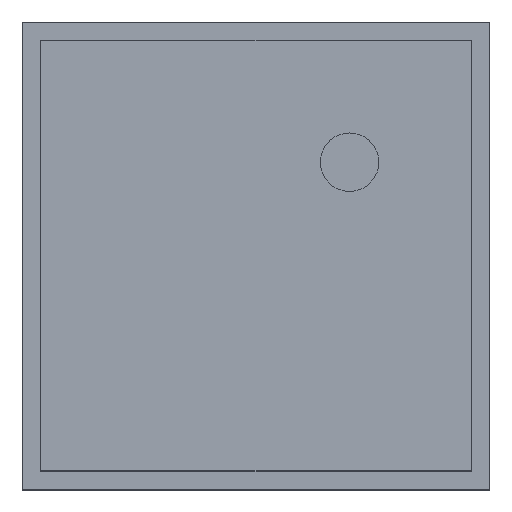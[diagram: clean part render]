
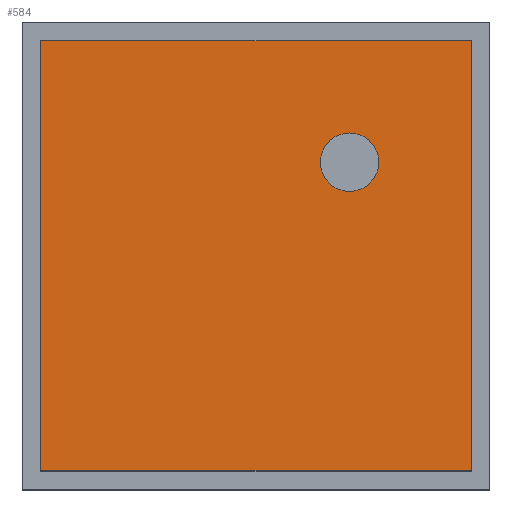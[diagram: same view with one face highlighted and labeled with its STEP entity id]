
A CAD part, top view. The second image highlights one B-rep face of the part: STEP entity #584.
In plain terms, the highlighted planar face has unit normal (0, 0, 1).
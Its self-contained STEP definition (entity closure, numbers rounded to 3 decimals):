
#395 = VERTEX_POINT('',#396);
#396 = CARTESIAN_POINT('',(-0.92,-0.92,0.75));
#403 = PLANE('',#404);
#404 = AXIS2_PLACEMENT_3D('',#405,#406,#407);
#405 = CARTESIAN_POINT('',(-0.92,-0.92,0.25));
#406 = DIRECTION('',(1.,0.,-0.));
#407 = DIRECTION('',(0.,0.,1.));
#415 = PLANE('',#416);
#416 = AXIS2_PLACEMENT_3D('',#417,#418,#419);
#417 = CARTESIAN_POINT('',(-0.92,-0.92,0.25));
#418 = DIRECTION('',(-0.,1.,0.));
#419 = DIRECTION('',(0.,0.,1.));
#456 = VERTEX_POINT('',#457);
#457 = CARTESIAN_POINT('',(-0.92,0.92,0.75));
#471 = PLANE('',#472);
#472 = AXIS2_PLACEMENT_3D('',#473,#474,#475);
#473 = CARTESIAN_POINT('',(-0.92,0.92,0.25));
#474 = DIRECTION('',(-0.,1.,0.));
#475 = DIRECTION('',(0.,0.,1.));
#483 = EDGE_CURVE('',#395,#456,#484,.T.);
#484 = SURFACE_CURVE('',#485,(#489,#496),.PCURVE_S1.);
#485 = LINE('',#486,#487);
#486 = CARTESIAN_POINT('',(-0.92,-0.92,0.75));
#487 = VECTOR('',#488,1.);
#488 = DIRECTION('',(-0.,1.,0.));
#489 = PCURVE('',#403,#490);
#490 = DEFINITIONAL_REPRESENTATION('',(#491),#495);
#491 = LINE('',#492,#493);
#492 = CARTESIAN_POINT('',(0.5,0.));
#493 = VECTOR('',#494,1.);
#494 = DIRECTION('',(0.,-1.));
#495 = ( GEOMETRIC_REPRESENTATION_CONTEXT(2) 
PARAMETRIC_REPRESENTATION_CONTEXT() REPRESENTATION_CONTEXT('2D SPACE',''
  ) );
#496 = PCURVE('',#497,#502);
#497 = PLANE('',#498);
#498 = AXIS2_PLACEMENT_3D('',#499,#500,#501);
#499 = CARTESIAN_POINT('',(-0.92,-0.92,0.75));
#500 = DIRECTION('',(0.,0.,1.));
#501 = DIRECTION('',(1.,0.,-0.));
#502 = DEFINITIONAL_REPRESENTATION('',(#503),#507);
#503 = LINE('',#504,#505);
#504 = CARTESIAN_POINT('',(0.,0.));
#505 = VECTOR('',#506,1.);
#506 = DIRECTION('',(0.,1.));
#507 = ( GEOMETRIC_REPRESENTATION_CONTEXT(2) 
PARAMETRIC_REPRESENTATION_CONTEXT() REPRESENTATION_CONTEXT('2D SPACE',''
  ) );
#536 = EDGE_CURVE('',#395,#537,#539,.T.);
#537 = VERTEX_POINT('',#538);
#538 = CARTESIAN_POINT('',(0.92,-0.92,0.75));
#539 = SURFACE_CURVE('',#540,(#544,#551),.PCURVE_S1.);
#540 = LINE('',#541,#542);
#541 = CARTESIAN_POINT('',(-0.92,-0.92,0.75));
#542 = VECTOR('',#543,1.);
#543 = DIRECTION('',(1.,0.,-0.));
#544 = PCURVE('',#415,#545);
#545 = DEFINITIONAL_REPRESENTATION('',(#546),#550);
#546 = LINE('',#547,#548);
#547 = CARTESIAN_POINT('',(0.5,0.));
#548 = VECTOR('',#549,1.);
#549 = DIRECTION('',(0.,1.));
#550 = ( GEOMETRIC_REPRESENTATION_CONTEXT(2) 
PARAMETRIC_REPRESENTATION_CONTEXT() REPRESENTATION_CONTEXT('2D SPACE',''
  ) );
#551 = PCURVE('',#497,#552);
#552 = DEFINITIONAL_REPRESENTATION('',(#553),#557);
#553 = LINE('',#554,#555);
#554 = CARTESIAN_POINT('',(0.,0.));
#555 = VECTOR('',#556,1.);
#556 = DIRECTION('',(1.,0.));
#557 = ( GEOMETRIC_REPRESENTATION_CONTEXT(2) 
PARAMETRIC_REPRESENTATION_CONTEXT() REPRESENTATION_CONTEXT('2D SPACE',''
  ) );
#573 = PLANE('',#574);
#574 = AXIS2_PLACEMENT_3D('',#575,#576,#577);
#575 = CARTESIAN_POINT('',(0.92,-0.92,0.25));
#576 = DIRECTION('',(1.,0.,-0.));
#577 = DIRECTION('',(0.,0.,1.));
#584 = ADVANCED_FACE('',(#585,#633),#497,.T.);
#585 = FACE_BOUND('',#586,.T.);
#586 = EDGE_LOOP('',(#587,#588,#589,#612));
#587 = ORIENTED_EDGE('',*,*,#483,.F.);
#588 = ORIENTED_EDGE('',*,*,#536,.T.);
#589 = ORIENTED_EDGE('',*,*,#590,.T.);
#590 = EDGE_CURVE('',#537,#591,#593,.T.);
#591 = VERTEX_POINT('',#592);
#592 = CARTESIAN_POINT('',(0.92,0.92,0.75));
#593 = SURFACE_CURVE('',#594,(#598,#605),.PCURVE_S1.);
#594 = LINE('',#595,#596);
#595 = CARTESIAN_POINT('',(0.92,-0.92,0.75));
#596 = VECTOR('',#597,1.);
#597 = DIRECTION('',(-0.,1.,0.));
#598 = PCURVE('',#497,#599);
#599 = DEFINITIONAL_REPRESENTATION('',(#600),#604);
#600 = LINE('',#601,#602);
#601 = CARTESIAN_POINT('',(1.84,0.));
#602 = VECTOR('',#603,1.);
#603 = DIRECTION('',(0.,1.));
#604 = ( GEOMETRIC_REPRESENTATION_CONTEXT(2) 
PARAMETRIC_REPRESENTATION_CONTEXT() REPRESENTATION_CONTEXT('2D SPACE',''
  ) );
#605 = PCURVE('',#573,#606);
#606 = DEFINITIONAL_REPRESENTATION('',(#607),#611);
#607 = LINE('',#608,#609);
#608 = CARTESIAN_POINT('',(0.5,0.));
#609 = VECTOR('',#610,1.);
#610 = DIRECTION('',(0.,-1.));
#611 = ( GEOMETRIC_REPRESENTATION_CONTEXT(2) 
PARAMETRIC_REPRESENTATION_CONTEXT() REPRESENTATION_CONTEXT('2D SPACE',''
  ) );
#612 = ORIENTED_EDGE('',*,*,#613,.F.);
#613 = EDGE_CURVE('',#456,#591,#614,.T.);
#614 = SURFACE_CURVE('',#615,(#619,#626),.PCURVE_S1.);
#615 = LINE('',#616,#617);
#616 = CARTESIAN_POINT('',(-0.92,0.92,0.75));
#617 = VECTOR('',#618,1.);
#618 = DIRECTION('',(1.,0.,-0.));
#619 = PCURVE('',#497,#620);
#620 = DEFINITIONAL_REPRESENTATION('',(#621),#625);
#621 = LINE('',#622,#623);
#622 = CARTESIAN_POINT('',(0.,1.84));
#623 = VECTOR('',#624,1.);
#624 = DIRECTION('',(1.,0.));
#625 = ( GEOMETRIC_REPRESENTATION_CONTEXT(2) 
PARAMETRIC_REPRESENTATION_CONTEXT() REPRESENTATION_CONTEXT('2D SPACE',''
  ) );
#626 = PCURVE('',#471,#627);
#627 = DEFINITIONAL_REPRESENTATION('',(#628),#632);
#628 = LINE('',#629,#630);
#629 = CARTESIAN_POINT('',(0.5,0.));
#630 = VECTOR('',#631,1.);
#631 = DIRECTION('',(0.,1.));
#632 = ( GEOMETRIC_REPRESENTATION_CONTEXT(2) 
PARAMETRIC_REPRESENTATION_CONTEXT() REPRESENTATION_CONTEXT('2D SPACE',''
  ) );
#633 = FACE_BOUND('',#634,.T.);
#634 = EDGE_LOOP('',(#635));
#635 = ORIENTED_EDGE('',*,*,#636,.F.);
#636 = EDGE_CURVE('',#637,#637,#639,.T.);
#637 = VERTEX_POINT('',#638);
#638 = CARTESIAN_POINT('',(0.525,0.4,0.75));
#639 = SURFACE_CURVE('',#640,(#645,#652),.PCURVE_S1.);
#640 = CIRCLE('',#641,0.125);
#641 = AXIS2_PLACEMENT_3D('',#642,#643,#644);
#642 = CARTESIAN_POINT('',(0.4,0.4,0.75));
#643 = DIRECTION('',(0.,0.,1.));
#644 = DIRECTION('',(1.,0.,-0.));
#645 = PCURVE('',#497,#646);
#646 = DEFINITIONAL_REPRESENTATION('',(#647),#651);
#647 = CIRCLE('',#648,0.125);
#648 = AXIS2_PLACEMENT_2D('',#649,#650);
#649 = CARTESIAN_POINT('',(1.32,1.32));
#650 = DIRECTION('',(1.,0.));
#651 = ( GEOMETRIC_REPRESENTATION_CONTEXT(2) 
PARAMETRIC_REPRESENTATION_CONTEXT() REPRESENTATION_CONTEXT('2D SPACE',''
  ) );
#652 = PCURVE('',#653,#658);
#653 = CYLINDRICAL_SURFACE('',#654,0.125);
#654 = AXIS2_PLACEMENT_3D('',#655,#656,#657);
#655 = CARTESIAN_POINT('',(0.4,0.4,0.6));
#656 = DIRECTION('',(0.,0.,1.));
#657 = DIRECTION('',(1.,0.,-0.));
#658 = DEFINITIONAL_REPRESENTATION('',(#659),#663);
#659 = LINE('',#660,#661);
#660 = CARTESIAN_POINT('',(0.,0.15));
#661 = VECTOR('',#662,1.);
#662 = DIRECTION('',(1.,0.));
#663 = ( GEOMETRIC_REPRESENTATION_CONTEXT(2) 
PARAMETRIC_REPRESENTATION_CONTEXT() REPRESENTATION_CONTEXT('2D SPACE',''
  ) );
